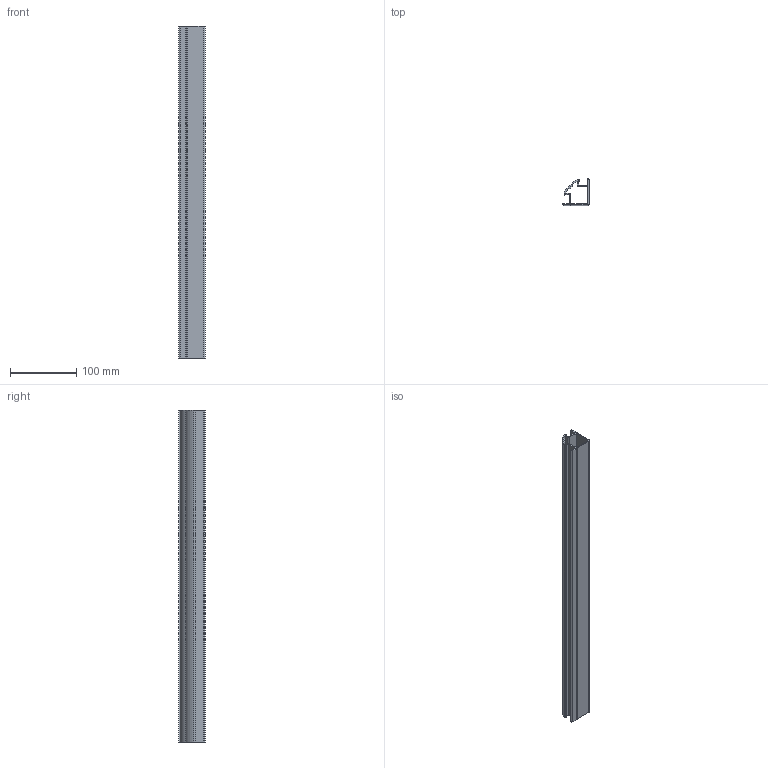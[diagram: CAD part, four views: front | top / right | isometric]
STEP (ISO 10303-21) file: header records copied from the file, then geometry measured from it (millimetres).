
FILE_DESCRIPTION (( 'STEP AP214' ), '1' );
FILE_NAME ('A40716.step', '2024-12-03T16:12:05', ( '' ), ( '' ), 'SwSTEP 2.0', 'SolidWorks 2023', '' );
FILE_SCHEMA (( 'AUTOMOTIVE_DESIGN' ));
Length unit declared in the file: millimetre
Products named in the file (1): A40716
Bounding box: 40 x 40 x 500 mm (x, y, z)
Volume: 155171.3 mm3; surface area: 155558.5 mm2
Topology: 1 solids, 1 shells, 44 faces, 126 edges, 84 vertices
Faces by surface type: plane 30, cylinder 14
Entity records: 1465 total; most frequent: CARTESIAN_POINT 255, ORIENTED_EDGE 252, DIRECTION 244, EDGE_CURVE 126, LINE 98, VECTOR 98, VERTEX_POINT 84, AXIS2_PLACEMENT_3D 73
